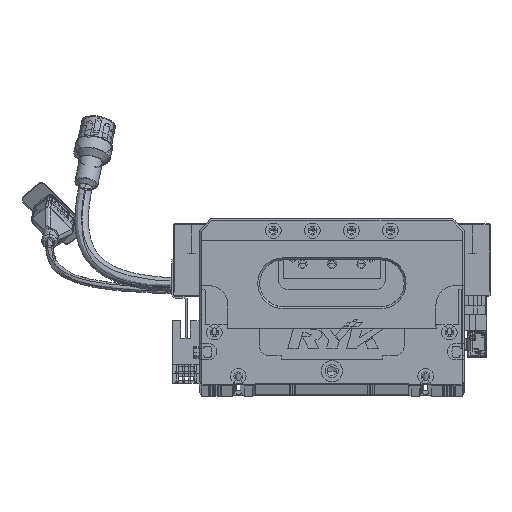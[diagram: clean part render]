
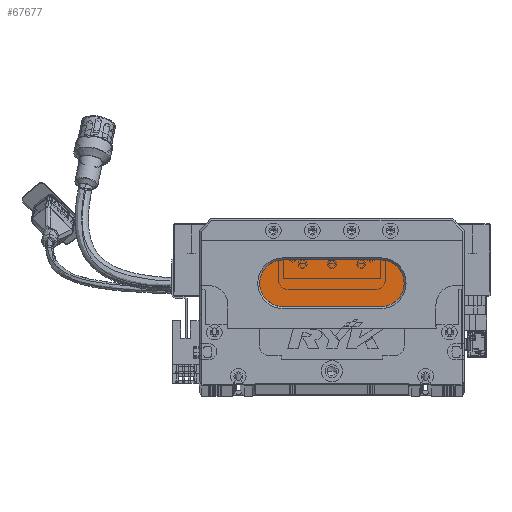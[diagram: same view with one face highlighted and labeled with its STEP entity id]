
A CAD part, top view. The second image highlights one B-rep face of the part: STEP entity #67677.
In plain terms, the highlighted planar face has unit normal (0, 0, 1) as drawn and (0, 0, -1) by its records, which use the part's own axes.
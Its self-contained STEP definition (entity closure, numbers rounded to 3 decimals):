
#4011 = CARTESIAN_POINT ( 'NONE',  ( 93., 52., 13. ) ) ;
#4755 = CARTESIAN_POINT ( 'NONE',  ( 93., 40., 13. ) ) ;
#9161 = CARTESIAN_POINT ( 'NONE',  ( 31., 52., 13. ) ) ;
#11058 = LINE ( 'NONE', #4755, #12881 ) ;
#12320 = CARTESIAN_POINT ( 'NONE',  ( 93., 40., 13. ) ) ;
#12881 = VECTOR ( 'NONE', #70446, 1000. ) ;
#16208 = ORIENTED_EDGE ( 'NONE', *, *, #56728, .T. ) ;
#17022 = VECTOR ( 'NONE', #116307, 1000. ) ;
#17223 = EDGE_LOOP ( 'NONE', ( #69554, #60382, #16208, #27926, #90400 ) ) ;
#17714 = CARTESIAN_POINT ( 'NONE',  ( 93., 64., 13. ) ) ;
#18131 = CIRCLE ( 'NONE', #143433, 12. ) ;
#22019 = DIRECTION ( 'NONE',  ( -1., 0., 0. ) ) ;
#22519 = CARTESIAN_POINT ( 'NONE',  ( 93., 52., 13. ) ) ;
#23426 = CIRCLE ( 'NONE', #39297, 12. ) ;
#24833 = CARTESIAN_POINT ( 'NONE',  ( 43., 52., 13. ) ) ;
#27926 = ORIENTED_EDGE ( 'NONE', *, *, #106791, .T. ) ;
#29222 = VERTEX_POINT ( 'NONE', #17714 ) ;
#32662 = LINE ( 'NONE', #38587, #17022 ) ;
#38587 = CARTESIAN_POINT ( 'NONE',  ( 93., 64., 13. ) ) ;
#39297 = AXIS2_PLACEMENT_3D ( 'NONE', #22519, #77454, #22019 ) ;
#40097 = FACE_OUTER_BOUND ( 'NONE', #17223, .T. ) ;
#40189 = EDGE_CURVE ( 'NONE', #142487, #29222, #32662, .T. ) ;
#44073 = CARTESIAN_POINT ( 'NONE',  ( 43., 40., 13. ) ) ;
#50123 = DIRECTION ( 'NONE',  ( 0., 0., -1. ) ) ;
#56728 = EDGE_CURVE ( 'NONE', #57571, #61736, #18131, .T. ) ;
#57571 = VERTEX_POINT ( 'NONE', #44073 ) ;
#59442 = PLANE ( 'NONE',  #101534 ) ;
#60382 = ORIENTED_EDGE ( 'NONE', *, *, #104892, .T. ) ;
#61736 = VERTEX_POINT ( 'NONE', #9161 ) ;
#62226 = CARTESIAN_POINT ( 'NONE',  ( 43., 52., 13. ) ) ;
#66313 = CIRCLE ( 'NONE', #135280, 12. ) ;
#67677 = ADVANCED_FACE ( 'NONE', ( #40097 ), #59442, .T. ) ;
#69554 = ORIENTED_EDGE ( 'NONE', *, *, #94886, .T. ) ;
#70446 = DIRECTION ( 'NONE',  ( -1., 0., 0. ) ) ;
#70517 = DIRECTION ( 'NONE',  ( -1., 0., 0. ) ) ;
#70625 = DIRECTION ( 'NONE',  ( 0., 0., -1. ) ) ;
#77454 = DIRECTION ( 'NONE',  ( 0., 0., -1. ) ) ;
#81779 = DIRECTION ( 'NONE',  ( -1., 0., 0. ) ) ;
#83642 = DIRECTION ( 'NONE',  ( -1., 0., 0. ) ) ;
#90400 = ORIENTED_EDGE ( 'NONE', *, *, #40189, .T. ) ;
#94886 = EDGE_CURVE ( 'NONE', #29222, #104020, #23426, .T. ) ;
#97871 = CARTESIAN_POINT ( 'NONE',  ( 43., 64., 13. ) ) ;
#101534 = AXIS2_PLACEMENT_3D ( 'NONE', #4011, #70625, #81779 ) ;
#104020 = VERTEX_POINT ( 'NONE', #12320 ) ;
#104892 = EDGE_CURVE ( 'NONE', #104020, #57571, #11058, .T. ) ;
#106791 = EDGE_CURVE ( 'NONE', #61736, #142487, #66313, .T. ) ;
#115188 = DIRECTION ( 'NONE',  ( 0., 0., -1. ) ) ;
#116307 = DIRECTION ( 'NONE',  ( 1., 0., 0. ) ) ;
#135280 = AXIS2_PLACEMENT_3D ( 'NONE', #24833, #115188, #70517 ) ;
#142487 = VERTEX_POINT ( 'NONE', #97871 ) ;
#143433 = AXIS2_PLACEMENT_3D ( 'NONE', #62226, #50123, #83642 ) ;
